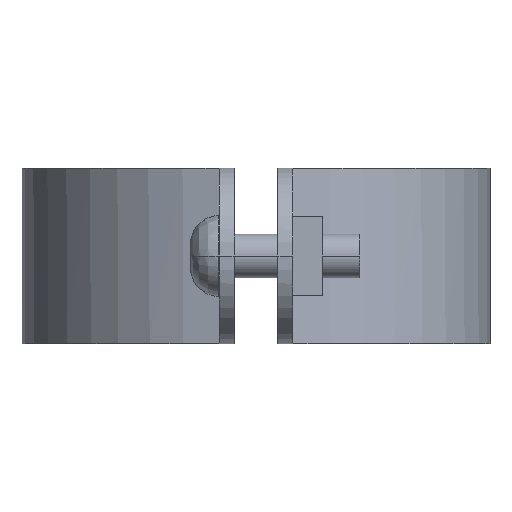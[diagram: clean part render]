
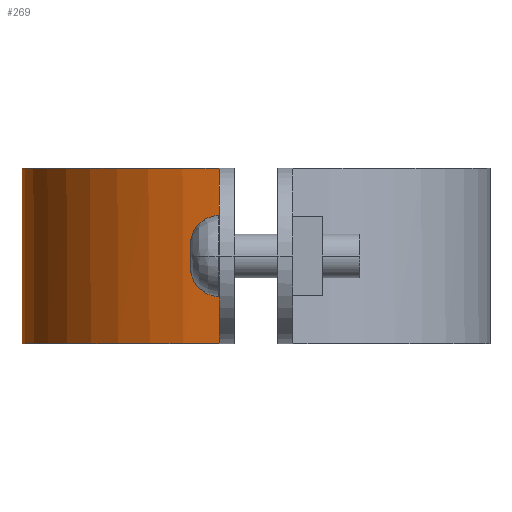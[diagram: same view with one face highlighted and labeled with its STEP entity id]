
A CAD part, left-side view. The second image highlights one B-rep face of the part: STEP entity #269.
In plain terms, the highlighted free-form (B-spline) face has degree [3, 1] with [4, 2] control points.
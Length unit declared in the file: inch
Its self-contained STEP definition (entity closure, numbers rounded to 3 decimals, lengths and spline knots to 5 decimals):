
#269=ADVANCED_FACE('',(#526),#527,.T.);
#526=FACE_OUTER_BOUND('',#1081,.T.);
#527=B_SPLINE_SURFACE_WITH_KNOTS('',3,1,((#1082,#1083),(#1084,#1085),(#1086,#1087),(#1088,#1089)),.UNSPECIFIED.,.F.,.F.,.F.,(4,4),(2,2),(-1.0,-0.0),(0.0,1.25),.UNSPECIFIED.);
#1081=EDGE_LOOP('',(#1790,#1791,#1792,#1793));
#1082=CARTESIAN_POINT('',(2.43685,3.40949,0.0));
#1083=CARTESIAN_POINT('',(2.43685,3.40949,1.25));
#1084=CARTESIAN_POINT('',(1.61723,3.40949,0.0));
#1085=CARTESIAN_POINT('',(1.61723,3.40949,1.25));
#1086=CARTESIAN_POINT('',(0.9193,2.81354,0.0));
#1087=CARTESIAN_POINT('',(0.9193,2.81354,1.25));
#1088=CARTESIAN_POINT('',(0.79089,2.00407,0.0));
#1089=CARTESIAN_POINT('',(0.79089,2.00407,1.25));
#1790=ORIENTED_EDGE('',*,*,#2199,.T.);
#1791=ORIENTED_EDGE('',*,*,#2105,.F.);
#1792=ORIENTED_EDGE('',*,*,#2200,.T.);
#1793=ORIENTED_EDGE('',*,*,#2059,.T.);
#2059=EDGE_CURVE('',#2399,#2397,#2400,.T.);
#2105=EDGE_CURVE('',#2468,#2470,#2471,.T.);
#2199=EDGE_CURVE('',#2397,#2470,#2597,.T.);
#2200=EDGE_CURVE('',#2468,#2399,#2598,.T.);
#2397=VERTEX_POINT('',#2964);
#2399=VERTEX_POINT('',#2967);
#2400=LINE('',#2968,#2969);
#2468=VERTEX_POINT('',#3086);
#2470=VERTEX_POINT('',#3089);
#2471=LINE('',#3090,#3091);
#2597=B_SPLINE_CURVE_WITH_KNOTS('',3,(#3368,#3369,#3370,#3371),.UNSPECIFIED.,.F.,.F.,(4,4),(0.0,1.0),.UNSPECIFIED.);
#2598=B_SPLINE_CURVE_WITH_KNOTS('',3,(#3372,#3373,#3374,#3375),.UNSPECIFIED.,.F.,.F.,(4,4),(-1.0,-0.0),.UNSPECIFIED.);
#2964=CARTESIAN_POINT('',(0.79089,2.00407,1.24989));
#2967=CARTESIAN_POINT('',(0.79089,2.00407,0.00011));
#2968=CARTESIAN_POINT('',(0.79089,2.00407,0.0));
#2969=VECTOR('',#3512,1.0);
#3086=CARTESIAN_POINT('',(2.43685,3.40949,0.00011));
#3089=CARTESIAN_POINT('',(2.43685,3.40949,1.24989));
#3090=CARTESIAN_POINT('',(2.43685,3.40949,0.0));
#3091=VECTOR('',#3545,1.0);
#3368=CARTESIAN_POINT('',(0.79089,2.00407,1.24989));
#3369=CARTESIAN_POINT('',(0.9193,2.81354,1.24989));
#3370=CARTESIAN_POINT('',(1.61723,3.40949,1.24989));
#3371=CARTESIAN_POINT('',(2.43685,3.40949,1.24989));
#3372=CARTESIAN_POINT('',(2.43685,3.40949,0.00011));
#3373=CARTESIAN_POINT('',(1.61723,3.40949,0.00011));
#3374=CARTESIAN_POINT('',(0.9193,2.81354,0.00011));
#3375=CARTESIAN_POINT('',(0.79089,2.00407,0.00011));
#3512=DIRECTION('',(0.0,0.0,1.0));
#3545=DIRECTION('',(0.0,0.0,1.0));
